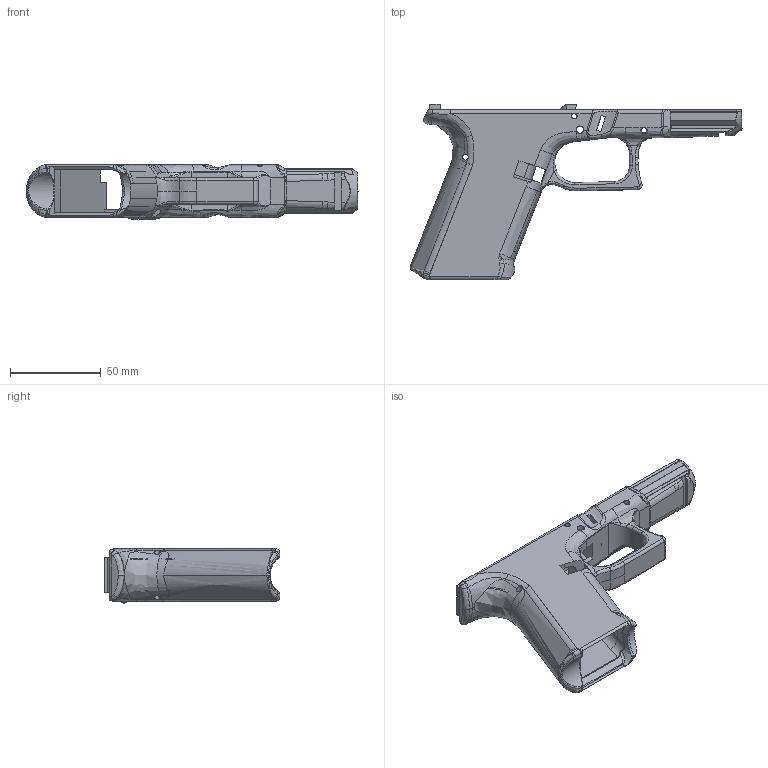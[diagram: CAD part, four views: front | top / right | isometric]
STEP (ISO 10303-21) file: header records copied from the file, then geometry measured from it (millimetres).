
FILE_DESCRIPTION(/* description */ (''),/* implementation_level */ '2;1');
FILE_NAME(/* name */ 'D:\~~GatCad\FMDA DD19.2\STL\FMDA DD19.2 V1.2 G5Spring Frame.stp',/* time_stamp */ '2021-02-04T13:51:00-06:00',/* author */ ('johne'),/* organization */ (''),/* preprocessor_version */ 'ST-DEVELOPER v18',/* originating_system */ 'Autodesk Inventor 2020',/* authorisation */ '');
FILE_SCHEMA (('AUTOMOTIVE_DESIGN { 1 0 10303 214 3 1 1 }'));
Products named in the file (1): FMDA G19.2 V1.2 G5 Spring
Bounding box: 183.22 x 97 x 29.84 mm (x, y, z)
Volume: 78212.5 mm3; surface area: 43433 mm2
Topology: 1 solids, 3 shells, 669 faces, 1929 edges, 1234 vertices
Faces by surface type: bspline 292, plane 189, cylinder 133, torus 29, sphere 14, cone 12
Full cylindrical faces by diameter (mm): 2 x1, 3 x4, 3.2 x2, 3.81 x1, 4 x2
Entity records: 53914 total; most frequent: CARTESIAN_POINT 37608, ORIENTED_EDGE 3838, DIRECTION 2576, EDGE_CURVE 1919, VERTEX_POINT 1237, AXIS2_PLACEMENT_3D 946, LINE 684, VECTOR 684
